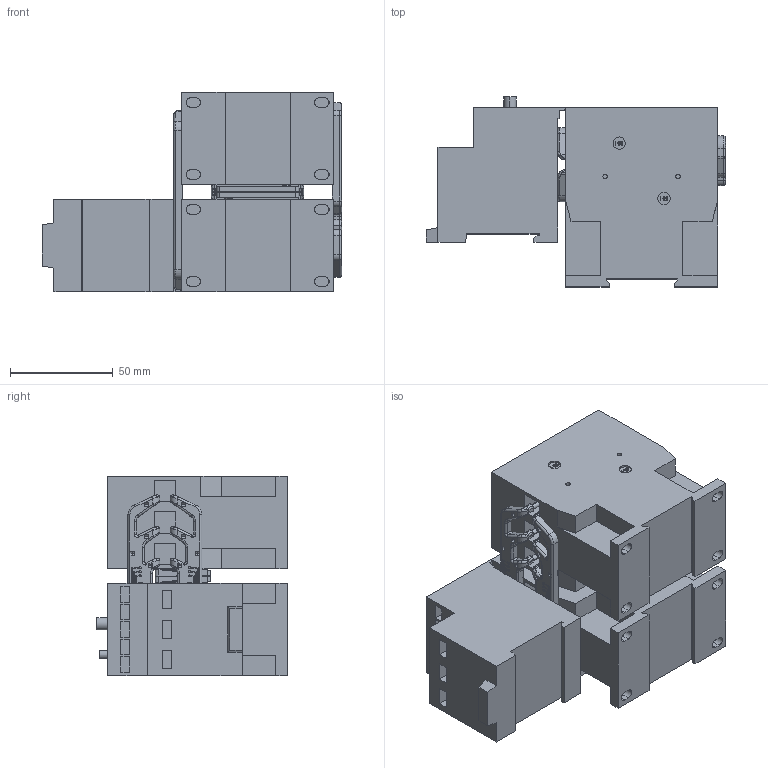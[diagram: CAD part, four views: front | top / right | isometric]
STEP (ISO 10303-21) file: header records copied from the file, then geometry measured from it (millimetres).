
FILE_DESCRIPTION (( 'STEP AP203' ), '1' );
FILE_NAME ('K3WU-24_32_40+U3_32.STEP', '2014-03-11T09:20:30', ( '' ), ( '' ), 'SwSTEP 2.0', 'SolidWorks 2014', '' );
FILE_SCHEMA (( 'CONFIG_CONTROL_DESIGN' ));
Length unit declared in the file: millimetre
Products named in the file (17): 65037; 28468; 65038; Imported44; 65041; 47922; 65039; Imported45; 65149; 47924; U3-32; 65042; K3WU-24_32_40+U3_32; 65040; K3-24_32_40
Assembly tree (19 placements, depth 3):
  K3WU-24_32_40+U3_32
    K3-24_32_40  x2
    47924
      28468
      Imported44
      47922
      Imported45
    65037
      65037
      65042
      65040  x2
    65038  x2
      65038
      65041
      65039
      65149
    U3-32
Bounding box: 145.8 x 92.6 x 97 mm (x, y, z)
Volume: 658806.3 mm3; surface area: 121470.6 mm2
Topology: 19 solids, 19 shells, 2922 faces, 7638 edges, 4925 vertices
Faces by surface type: plane 1333, cylinder 850, bspline 573, torus 151, cone 15
Entity records: 80407 total; most frequent: CARTESIAN_POINT 30382, ORIENTED_EDGE 10722, DIRECTION 8939, EDGE_CURVE 5361, VERTEX_POINT 3459, VECTOR 3095, LINE 3095, AXIS2_PLACEMENT_3D 2922
